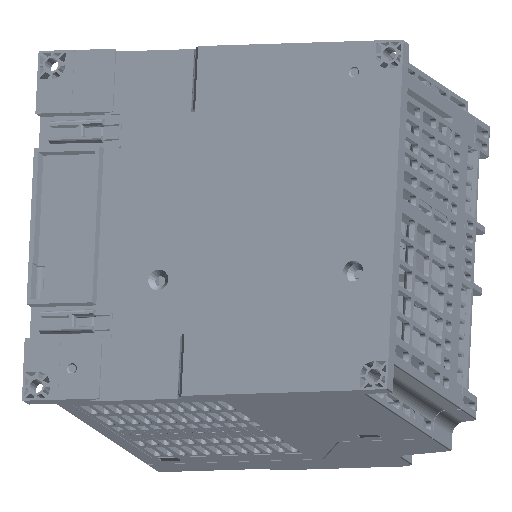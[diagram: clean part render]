
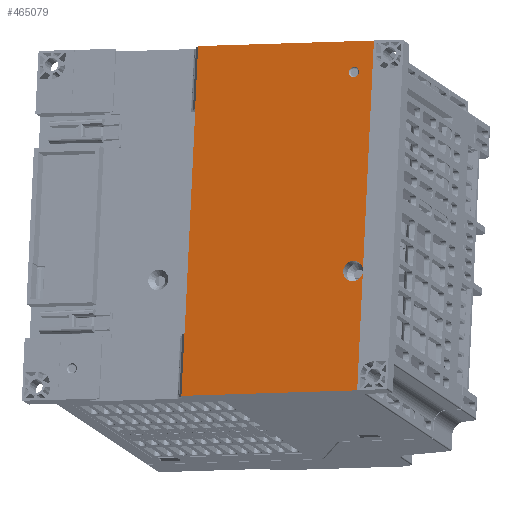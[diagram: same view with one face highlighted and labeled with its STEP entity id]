
A CAD part, front view. The second image highlights one B-rep face of the part: STEP entity #465079.
In plain terms, the highlighted planar face has unit normal (-0.332, -0.917, 0.221) as drawn and (0, 0, 1) by its records, which use the part's own axes.
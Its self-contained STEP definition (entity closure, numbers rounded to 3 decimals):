
#464982=CARTESIAN_POINT('',(-656.716,0.,80.1));
#464983=DIRECTION('',(0.0,0.0,1.0));
#464984=DIRECTION('',(1.0,0.0,0.0));
#464985=AXIS2_PLACEMENT_3D('',#464982,#464983,#464984);
#464986=PLANE('',#464985);
#464987=CARTESIAN_POINT('',(-613.138,-9.297,80.1));
#464988=VERTEX_POINT('',#464987);
#464989=CARTESIAN_POINT('',(-588.716,-9.297,80.1));
#464990=VERTEX_POINT('',#464989);
#464991=CARTESIAN_POINT('',(-613.138,-9.297,80.1));
#464992=DIRECTION('',(1.0,0.0,0.0));
#464993=VECTOR('',#464992,24.421);
#464994=LINE('',#464991,#464993);
#464995=EDGE_CURVE('',#464988,#464990,#464994,.T.);
#464996=ORIENTED_EDGE('',*,*,#464995,.T.);
#464997=CARTESIAN_POINT('',(-588.716,61.5,80.1));
#464998=VERTEX_POINT('',#464997);
#464999=CARTESIAN_POINT('',(-588.716,-9.297,80.1));
#465000=DIRECTION('',(0.0,1.0,0.0));
#465001=VECTOR('',#465000,70.797);
#465002=LINE('',#464999,#465001);
#465003=EDGE_CURVE('',#464990,#464998,#465002,.T.);
#465004=ORIENTED_EDGE('',*,*,#465003,.T.);
#465005=CARTESIAN_POINT('',(-635.206,61.5,80.1));
#465006=VERTEX_POINT('',#465005);
#465007=CARTESIAN_POINT('',(-588.716,61.5,80.1));
#465008=DIRECTION('',(-1.0,0.0,0.0));
#465009=VECTOR('',#465008,46.49);
#465010=LINE('',#465007,#465009);
#465011=EDGE_CURVE('',#464998,#465006,#465010,.T.);
#465012=ORIENTED_EDGE('',*,*,#465011,.T.);
#465013=CARTESIAN_POINT('',(-635.206,57.5,80.1));
#465014=DIRECTION('',(0.0,0.0,-1.0));
#465015=DIRECTION('',(-0.587,0.81,0.0));
#465016=AXIS2_PLACEMENT_3D('',#465013,#465014,#465015);
#465017=CIRCLE('',#465016,4.);
#465018=EDGE_CURVE('',#465006,#465006,#465017,.T.);
#465019=ORIENTED_EDGE('',*,*,#465018,.T.);
#465020=CARTESIAN_POINT('',(-724.716,61.5,80.1));
#465021=VERTEX_POINT('',#465020);
#465022=CARTESIAN_POINT('',(-635.206,61.5,80.1));
#465023=DIRECTION('',(-1.0,0.0,0.0));
#465024=VECTOR('',#465023,89.51);
#465025=LINE('',#465022,#465024);
#465026=EDGE_CURVE('',#465006,#465021,#465025,.T.);
#465027=ORIENTED_EDGE('',*,*,#465026,.T.);
#465028=CARTESIAN_POINT('',(-724.716,-9.297,80.1));
#465029=VERTEX_POINT('',#465028);
#465030=CARTESIAN_POINT('',(-724.716,61.5,80.1));
#465031=DIRECTION('',(0.0,-1.0,0.0));
#465032=VECTOR('',#465031,70.797);
#465033=LINE('',#465030,#465032);
#465034=EDGE_CURVE('',#465021,#465029,#465033,.T.);
#465035=ORIENTED_EDGE('',*,*,#465034,.T.);
#465036=CARTESIAN_POINT('',(-700.295,-9.297,80.1));
#465037=VERTEX_POINT('',#465036);
#465038=CARTESIAN_POINT('',(-724.716,-9.297,80.1));
#465039=DIRECTION('',(1.0,0.0,0.0));
#465040=VECTOR('',#465039,24.421);
#465041=LINE('',#465038,#465040);
#465042=EDGE_CURVE('',#465029,#465037,#465041,.T.);
#465043=ORIENTED_EDGE('',*,*,#465042,.T.);
#465044=CARTESIAN_POINT('',(-700.295,-9.219,80.1));
#465045=VERTEX_POINT('',#465044);
#465046=CARTESIAN_POINT('',(-700.295,-9.219,80.1));
#465047=DIRECTION('',(0.0,-1.0,0.0));
#465048=VECTOR('',#465047,0.079);
#465049=LINE('',#465046,#465048);
#465050=EDGE_CURVE('',#465045,#465037,#465049,.T.);
#465051=ORIENTED_EDGE('',*,*,#465050,.F.);
#465052=CARTESIAN_POINT('',(-613.138,-9.219,80.1));
#465053=VERTEX_POINT('',#465052);
#465054=CARTESIAN_POINT('',(-700.295,-9.219,80.1));
#465055=DIRECTION('',(1.0,0.0,0.0));
#465056=VECTOR('',#465055,87.157);
#465057=LINE('',#465054,#465056);
#465058=EDGE_CURVE('',#465045,#465053,#465057,.T.);
#465059=ORIENTED_EDGE('',*,*,#465058,.T.);
#465060=CARTESIAN_POINT('',(-613.138,-9.219,80.1));
#465061=DIRECTION('',(0.0,-1.0,0.0));
#465062=VECTOR('',#465061,0.079);
#465063=LINE('',#465060,#465062);
#465064=EDGE_CURVE('',#465053,#464988,#465063,.T.);
#465065=ORIENTED_EDGE('',*,*,#465064,.T.);
#465066=EDGE_LOOP('',(#464996,#465004,#465012,#465019,#465027,#465035,#465043,#465051,#465059,#465065));
#465067=FACE_OUTER_BOUND('',#465066,.T.);
#465068=CARTESIAN_POINT('',(-712.692,52.0,80.1));
#465069=VERTEX_POINT('',#465068);
#465070=CARTESIAN_POINT('',(-712.692,54.0,80.1));
#465071=DIRECTION('',(0.0,0.0,1.0));
#465072=DIRECTION('',(0.0,-1.0,0.0));
#465073=AXIS2_PLACEMENT_3D('',#465070,#465071,#465072);
#465074=CIRCLE('',#465073,2.0);
#465075=EDGE_CURVE('',#465069,#465069,#465074,.T.);
#465076=ORIENTED_EDGE('',*,*,#465075,.F.);
#465077=EDGE_LOOP('',(#465076));
#465078=FACE_BOUND('',#465077,.T.);
#465079=ADVANCED_FACE('',(#465067,#465078),#464986,.T.);
